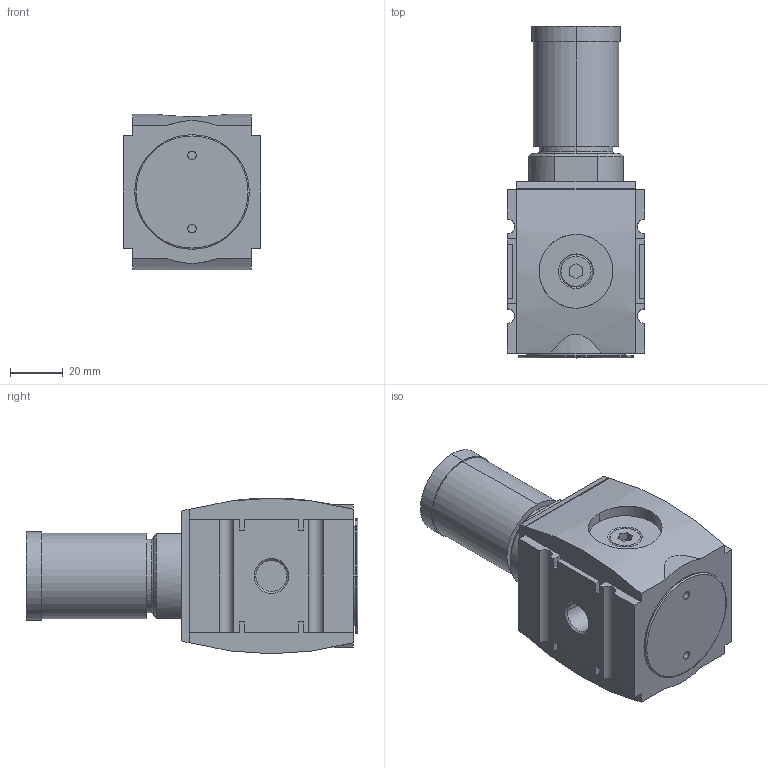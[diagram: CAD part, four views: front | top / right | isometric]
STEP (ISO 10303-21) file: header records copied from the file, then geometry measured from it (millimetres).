
FILE_DESCRIPTION((''),'2;1');
FILE_NAME('R412006104_ASM','2016-06-14T',('prr2cob'),(''),'PRO/ENGINEER BY PARAMETRIC TECHNOLOGY CORPORATION, 2012421','PRO/ENGINEER BY PARAMETRIC TECHNOLOGY CORPORATION, 2012421','');
FILE_SCHEMA(('CONFIG_CONTROL_DESIGN','SHAPE_APPEARANCE_LAYERS_GROUPS'));
Length unit declared in the file: millimetre
Products named in the file (3): R412006104; AS2_PLUG_14; R412006104_ASM
Assembly tree (2 placements, depth 2):
  R412006104_ASM
    R412006104
    AS2_PLUG_14
Bounding box: 52 x 125.8 x 59 mm (x, y, z)
Volume: 225617.6 mm3; surface area: 32078.7 mm2
Topology: 2 solids, 2 shells, 133 faces, 324 edges, 210 vertices
Faces by surface type: plane 81, cylinder 36, cone 12, torus 4
Entity records: 4178 total; most frequent: CARTESIAN_POINT 880, DIRECTION 684, ORIENTED_EDGE 648, EDGE_CURVE 324, AXIS2_PLACEMENT_3D 230, VECTOR 224, LINE 224, VERTEX_POINT 210
